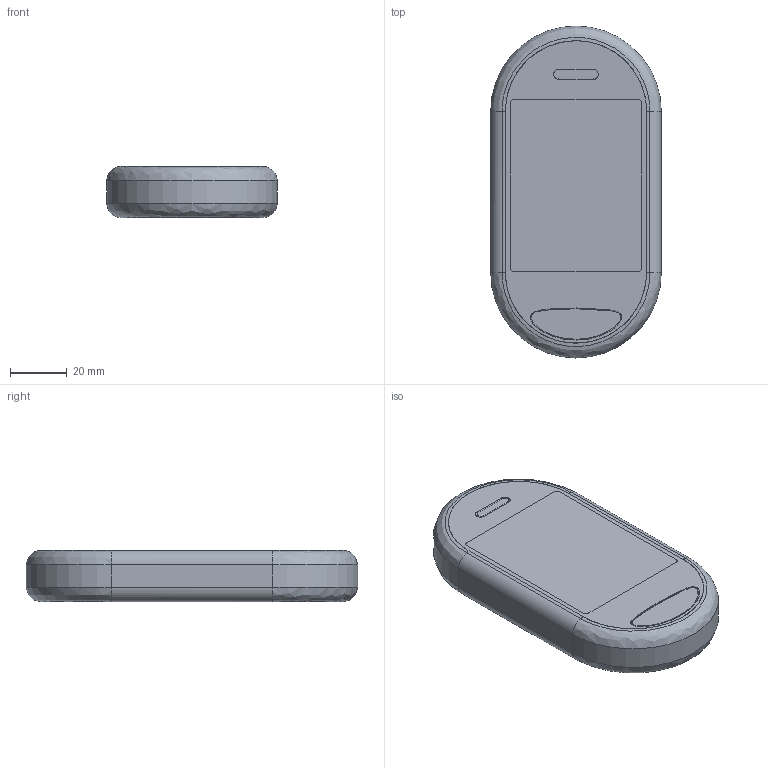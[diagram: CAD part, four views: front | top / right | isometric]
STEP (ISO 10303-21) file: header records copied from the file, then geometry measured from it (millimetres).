
FILE_DESCRIPTION((''),'2;1');
FILE_NAME('ID-GTC-FRONT-PRE_PRT','2008-06-30T',('GRA'),(''),'PRO/ENGINEER BY PARAMETRIC TECHNOLOGY CORPORATION, 2006170','PRO/ENGINEER BY PARAMETRIC TECHNOLOGY CORPORATION, 2006170','');
FILE_SCHEMA(('CONFIG_CONTROL_DESIGN'));
Length unit declared in the file: millimetre
Products named in the file (1): ID-GTC-FRONT-PRE_PRT
Bounding box: 60 x 116.7 x 18 mm (x, y, z)
Volume: 3446.4 mm3; surface area: 26917.4 mm2
Topology: 1 solids, 4 shells, 67 faces, 152 edges, 92 vertices
Faces by surface type: bspline 29, plane 16, extrusion 12, cylinder 10
Entity records: 5348 total; most frequent: CARTESIAN_POINT 4023, ORIENTED_EDGE 296, DIRECTION 174, EDGE_CURVE 152, VERTEX_POINT 92, B_SPLINE_CURVE_WITH_KNOTS 82, EDGE_LOOP 75, VECTOR 68
